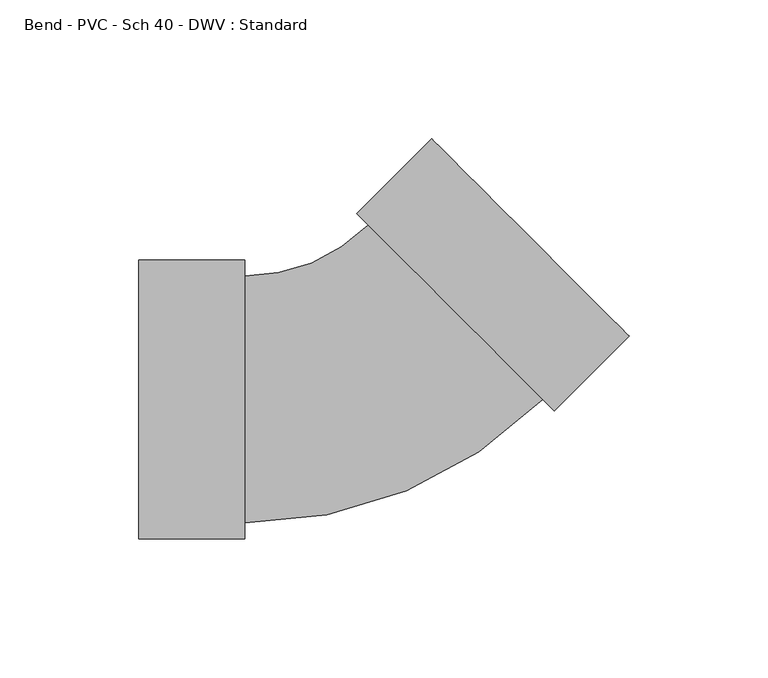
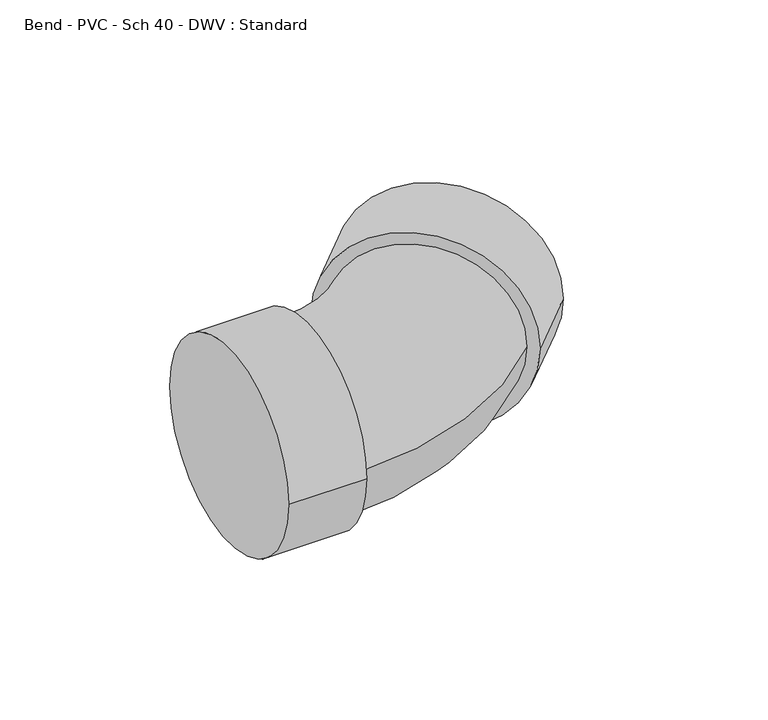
"""IFC4 building model written with IfcOpenShell, lengths in millimetres: pipe fitting geometry, Bend - PVC - Sch 40 - DWV : Standard."""

import ifcopenshell
import ifcopenshell.guid

model = None  # the IFC model being written
_history = None  # IfcOwnerHistory: only IFC2X3 demands one
_inside = {}  # id of a spatial element -> (the spatial element, [elements in it])
_under = {}  # id of a project, library or spatial element -> (it, [spatial elements below it])
_declared = {}  # id of a project -> (the project, [libraries it declares])
_typed = {}  # id of a type object -> (the type object, [elements of that type])
_made_of = {}  # id of a material, layer set ... -> (it, [elements and type objects made of it])


def new_model(schema):
    """Start an empty IFC model of exactly this schema.

    Asked for "IFC4X3", IfcOpenShell would pick the latest addendum, in which some entities
    have other attributes; the version numbers below select the first issue.
    IFC2X3 requires an IfcOwnerHistory on every rooted entity: one is made here for all.
    """
    global model, _history
    if schema == "IFC4X3":
        model = ifcopenshell.file(schema_version=(4, 3, 0, 0))
    else:
        model = ifcopenshell.file(schema=schema)
    _inside.clear()
    _under.clear()
    _declared.clear()
    _typed.clear()
    _made_of.clear()
    _history = None
    if model.schema == "IFC2X3":
        org = make("IfcOrganization", Name="unknown")
        user = make(
            "IfcPersonAndOrganization",
            ThePerson=make("IfcPerson", FamilyName="unknown"),
            TheOrganization=org,
        )
        app = make(
            "IfcApplication",
            ApplicationDeveloper=org,
            Version="unknown",
            ApplicationFullName="unknown",
            ApplicationIdentifier="unknown",
        )
        _history = make(
            "IfcOwnerHistory",
            OwningUser=user,
            OwningApplication=app,
            ChangeAction="ADDED",
            CreationDate=0,
        )
    return model


def make(cls, **values):
    """One entity of the class cls with the attributes given. An attribute that is None is left unset."""
    return model.create_entity(
        cls, **{name: value for name, value in values.items() if value is not None}
    )


def rooted(cls, **values):
    """An entity with a GlobalId (a new one), such as an element, a storey or a relation."""
    return make(cls, GlobalId=ifcopenshell.guid.new(), OwnerHistory=_history, **values)


def si_unit(unit_type, name, prefix=None):
    """IfcSIUnit, for example si_unit("LENGTHUNIT", "METRE", prefix="MILLI")."""
    return make("IfcSIUnit", UnitType=unit_type, Prefix=prefix, Name=name)


def assignment(units):
    """IfcUnitAssignment: the units of a project."""
    return None if units is None else make("IfcUnitAssignment", Units=units)


def point(xyz):
    """IfcCartesianPoint."""
    return None if xyz is None else make("IfcCartesianPoint", Coordinates=xyz)


def direction(xyz):
    """IfcDirection."""
    return None if xyz is None else make("IfcDirection", DirectionRatios=xyz)


def frame(location, z_axis=None, x_axis=None):
    """IfcAxis2Placement3D, a coordinate frame: its origin and axes. An axis left out is left unset."""
    return make(
        "IfcAxis2Placement3D",
        Location=point(location),
        Axis=direction(z_axis),
        RefDirection=direction(x_axis),
    )


def origin():
    """The frame at (0, 0, 0) with its axes left unset."""
    return frame((0.0, 0.0, 0.0))


def place(relative_to, where):
    """IfcLocalPlacement: puts the frame where relative to a parent placement (None: the world)."""
    return make(
        "IfcLocalPlacement", PlacementRelTo=relative_to, RelativePlacement=where
    )


def context(
    kind, dimensions, precision=None, world=None, true_north=None, identifier=None
):
    """IfcGeometricRepresentationContext, for example the 3D "Model" context."""
    return make(
        "IfcGeometricRepresentationContext",
        ContextIdentifier=identifier,
        ContextType=kind,
        CoordinateSpaceDimension=dimensions,
        Precision=precision,
        WorldCoordinateSystem=world,
        TrueNorth=true_north,
    )


def project(units=None, contexts=None):
    """IfcProject with its units and contexts."""
    return rooted(
        "IfcProject",
        Name="project",
        RepresentationContexts=contexts,
        UnitsInContext=assignment(units),
    )


def spatial(cls, under=None, at=None, **own):
    """A site, building, storey or space (cls), placed at a placement, below another one or the project."""
    s = rooted(cls, ObjectPlacement=at, **own)
    if under is not None:
        _under.setdefault(under.id(), (under, []))[1].append(s)
    return s


def circle_curve(where, radius):
    """IfcCircle in the frame where."""
    return make("IfcCircle", Position=where, Radius=radius)


def ellipse_curve(where, semi_axis1, semi_axis2):
    """IfcEllipse in the frame where."""
    return make(
        "IfcEllipse", Position=where, SemiAxis1=semi_axis1, SemiAxis2=semi_axis2
    )


def trimmed(basis, trim1, trim2, sense, master):
    """IfcTrimmedCurve: the piece of a basis curve between two trims."""
    return make(
        "IfcTrimmedCurve",
        BasisCurve=basis,
        Trim1=trim1,
        Trim2=trim2,
        SenseAgreement=sense,
        MasterRepresentation=master,
    )


def shape(context_of_items, identifier, shape_type, items):
    """IfcShapeRepresentation: the items that make up one representation, for example the "Body"."""
    return make(
        "IfcShapeRepresentation",
        ContextOfItems=context_of_items,
        RepresentationIdentifier=identifier,
        RepresentationType=shape_type,
        Items=items,
    )


def source(mapping_origin, context_of_items, identifier, shape_type, items):
    """IfcRepresentationMap: a shape defined once, which mapped items show again and again."""
    return make(
        "IfcRepresentationMap",
        MappingOrigin=mapping_origin,
        MappedRepresentation=shape(context_of_items, identifier, shape_type, items),
    )


def transform(
    local_origin,
    x_axis=None,
    y_axis=None,
    z_axis=None,
    scale=None,
    scale2=None,
    scale3=None,
    uniform=True,
):
    """IfcCartesianTransformationOperator3D, or its non-uniform kind. x_axis, y_axis, z_axis: its Axis1, 2, 3."""
    if uniform:
        return make(
            "IfcCartesianTransformationOperator3D",
            Axis1=direction(x_axis),
            Axis2=direction(y_axis),
            LocalOrigin=point(local_origin),
            Scale=scale,
            Axis3=direction(z_axis),
        )
    return make(
        "IfcCartesianTransformationOperator3DnonUniform",
        Axis1=direction(x_axis),
        Axis2=direction(y_axis),
        LocalOrigin=point(local_origin),
        Scale=scale,
        Axis3=direction(z_axis),
        Scale2=scale2,
        Scale3=scale3,
    )


def mapped(mapping_source, mapping_target):
    """IfcMappedItem: shows the shape of a source again, moved by a transform."""
    return make(
        "IfcMappedItem", MappingSource=mapping_source, MappingTarget=mapping_target
    )


def made_of(thing, what):
    """Note that an element or type object is made of a material, layer set ...; save() writes the relation."""
    if what is not None:
        _made_of.setdefault(what.id(), (what, []))[1].append(thing)
    return thing


def element(
    cls,
    number,
    at=None,
    inside=None,
    cuts=None,
    type_object=None,
    material=None,
    context=None,
    identifier="Body",
    shape_type=None,
    held_by="IfcProductDefinitionShape",
    body=None,
    shapes=None,
    **own,
):
    """One element of the class cls, such as IfcWall. Its Tag is "e" and its number.

    at: its placement. inside: the storey or other place that contains it. cuts: it is an
    opening in that element (IfcRelVoidsElement). A single representation is given by context,
    identifier, shape_type and body (its items); several are given by shapes. held_by: the class
    of the entity that holds the representations. save() writes the other relations.
    """
    e = rooted(cls, Tag="e%d" % number, ObjectPlacement=at, **own)
    if body is not None:
        shapes = [shape(context, identifier, shape_type, body)]
    if shapes is not None:
        e.Representation = make(held_by, Representations=shapes)
    if inside is not None:
        _inside.setdefault(inside.id(), (inside, []))[1].append(e)
    if cuts is not None:
        rooted(
            "IfcRelVoidsElement", RelatingBuildingElement=cuts, RelatedOpeningElement=e
        )
    if type_object is not None:
        _typed.setdefault(type_object.id(), (type_object, []))[1].append(e)
    return made_of(e, material)


def aggregate(whole, parts):
    """IfcRelAggregates: a whole, such as a stair, and the parts it consists of."""
    return rooted("IfcRelAggregates", RelatingObject=whole, RelatedObjects=parts)


def save(model, path):
    """Write the relations noted so far, then the file.

    IfcRelAggregates (storeys below a building ...), IfcRelContainedInSpatialStructure (elements
    in a storey), IfcRelDefinesByType, IfcRelAssociatesMaterial and IfcRelDeclares: one each for
    every whole, place, type object, material and project.
    """
    for whole, parts in _under.values():
        aggregate(whole, parts)
    for where, things in _inside.values():
        rooted(
            "IfcRelContainedInSpatialStructure",
            RelatedElements=things,
            RelatingStructure=where,
        )
    for kind, things in _typed.values():
        rooted("IfcRelDefinesByType", RelatedObjects=things, RelatingType=kind)
    for what, things in _made_of.values():
        rooted("IfcRelAssociatesMaterial", RelatedObjects=things, RelatingMaterial=what)
    for by, libraries in _declared.values():
        rooted("IfcRelDeclares", RelatingContext=by, RelatedDefinitions=libraries)
    model.write(path)


def plane_surface(at):
    """IfcPlane: the flat surface through the origin of the frame at, square to its z axis."""
    return make("IfcPlane", Position=at)


def cylinder_surface(at, radius):
    """IfcCylindricalSurface: all points at the distance radius from the z axis of the frame at."""
    return make("IfcCylindricalSurface", Position=at, Radius=radius)


def revolved_surface(curve, axis_point, axis_direction):
    """IfcSurfaceOfRevolution: the curve turned about the line through axis_point along axis_direction."""
    return make(
        "IfcSurfaceOfRevolution",
        SweptCurve=make("IfcArbitraryOpenProfileDef", ProfileType="CURVE", Curve=curve),
        AxisPosition=make("IfcAxis1Placement", Location=point(axis_point), Axis=direction(axis_direction)),
    )


def advanced_brep(points, edges, surfaces, faces):
    """IfcAdvancedBrep: a solid bounded by faces that lie on surfaces and meet in shared edges.

    An edge is (start, end): straight between two places in points (the first is 0);
    or (start, end, curve); or (start, end, curve, False) where it runs against its curve.
    A face is (place in surfaces, loops), or (place, loops, False) where it looks against
    its surface's normal. A loop lists edges by number (the first is 1), with a minus sign
    where the edge is run from its end to its start. The first loop is the outer one.
    """
    corners = [point(p) for p in points]
    vertices = [make("IfcVertexPoint", VertexGeometry=c) for c in corners]
    made = []
    for start, end, *more in edges:
        made.append(
            make(
                "IfcEdgeCurve",
                EdgeStart=vertices[start],
                EdgeEnd=vertices[end],
                EdgeGeometry=more[0] if more else make("IfcPolyline", Points=[corners[start], corners[end]]),
                SameSense=more[1] if len(more) > 1 else True,
            )
        )
    hull = []
    for where, loops, *sense in faces:
        bounds = []
        for j, loop in enumerate(loops):
            ring = [make("IfcOrientedEdge", EdgeElement=made[abs(k) - 1], Orientation=k > 0) for k in loop]
            bounds.append(
                make(
                    "IfcFaceOuterBound" if j == 0 else "IfcFaceBound",
                    Bound=make("IfcEdgeLoop", EdgeList=ring),
                    Orientation=True,
                )
            )
        hull.append(make("IfcAdvancedFace", Bounds=bounds, FaceSurface=surfaces[where], SameSense=sense[0] if sense else True))
    return make("IfcAdvancedBrep", Outer=make("IfcClosedShell", CfsFaces=hull))


def bend_pvc_sch_40_dwv_standard_679b6376(model_context):
    return source(origin(), model_context, "Body", "AdvancedBrep", [
        advanced_brep(
        [(-82.55, -50.2666, 0.0), (-82.55, 50.2666, 0.0), (-44.45, -50.2666, 0.0), (-44.45, 50.2666, 0.0), (-44.45, -44.45, 0.0), (-44.45, 44.45, 0.0), (0.0112801, 62.8617918, 0.0), (62.8617918, -0.0112801, 0.0), (66.974011, -4.1249754, 0.0), (-4.1009391, 66.9754871, 0.0), (93.9196133, 22.8109582, 0.0), (22.8446632, 93.9114207, 0.0)],
        [
            (0, 1, circle_curve(frame((-82.55, 0.0, 0.0), z_axis=(-1.0, 0.0, 0.0), x_axis=(0.0, 1.0, 0.0)), 50.2666)),
            (1, 0, circle_curve(frame((-82.55, 0.0, 0.0), z_axis=(-1.0, 0.0, 0.0), x_axis=(0.0, 1.0, 0.0)), 50.2666)),
            (2, 3, circle_curve(frame((-44.45, 0.0, 0.0), z_axis=(1.0, 0.0, 0.0), x_axis=(0.0, 1.0, 0.0)), 50.2666)),
            (3, 2, circle_curve(frame((-44.45, 0.0, 0.0), z_axis=(1.0, 0.0, 0.0), x_axis=(0.0, 1.0, 0.0)), 50.2666)),
            (4, 5, circle_curve(frame((-44.45, 0.0, 0.0), z_axis=(-1.0, 0.0, 0.0), x_axis=(0.0, 1.0, 0.0)), 44.45)),
            (5, 4, circle_curve(frame((-44.45, 0.0, 0.0), z_axis=(-1.0, 0.0, 0.0), x_axis=(0.0, 1.0, 0.0)), 44.45)),
            (0, 2),
            (3, 1),
            (6, 5, circle_curve(frame((-44.45, 107.3390314, 0.0), z_axis=(0.0, 0.0, -1.0), x_axis=(0.0, -1.0, 0.0)), 62.8890314)),
            (4, 7, circle_curve(frame((-44.45, 107.3390314, 0.0), z_axis=(0.0, 0.0, 1.0), x_axis=(0.0, -1.0, 0.0)), 151.7890314)),
            (7, 6, circle_curve(frame((31.436536, 31.4252558, 0.0), z_axis=(-0.7072336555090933, -0.7069798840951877, 0.0), x_axis=(-0.7069798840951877, 0.7072336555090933, 0.0)), 44.45)),
            (6, 7, circle_curve(frame((31.436536, 31.4252558, 0.0), z_axis=(-0.7072336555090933, -0.7069798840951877, 0.0), x_axis=(-0.7069798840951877, 0.7072336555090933, 0.0)), 44.45)),
            (8, 9, circle_curve(frame((31.436536, 31.4252558, 0.0), z_axis=(-0.7072336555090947, -0.7069798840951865, 0.0), x_axis=(-0.7069798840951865, 0.7072336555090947, 0.0)), 50.2666)),
            (9, 8, circle_curve(frame((31.436536, 31.4252558, 0.0), z_axis=(-0.7072336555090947, -0.7069798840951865, 0.0), x_axis=(-0.7069798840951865, 0.7072336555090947, 0.0)), 50.2666)),
            (10, 11, circle_curve(frame((58.3821383, 58.3611894, 0.0), z_axis=(0.7072336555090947, 0.7069798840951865, 0.0), x_axis=(-0.7069798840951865, 0.7072336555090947, 0.0)), 50.2666)),
            (11, 10, circle_curve(frame((58.3821383, 58.3611894, 0.0), z_axis=(0.7072336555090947, 0.7069798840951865, 0.0), x_axis=(-0.7069798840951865, 0.7072336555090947, 0.0)), 50.2666)),
            (8, 10),
            (11, 9),
        ],
        [
            plane_surface(frame((-82.55, 0.0, 0.0), z_axis=(-1.0, 0.0, 0.0), x_axis=(0.0, 0.0, 1.0))),
            plane_surface(frame((-44.45, 0.0, 0.0), z_axis=(1.0, 0.0, 0.0), x_axis=(0.0, 0.0, 1.0))),
            cylinder_surface(frame((-82.55, 0.0, 0.0), z_axis=(-1.0, 0.0, 0.0), x_axis=(0.0, 1.0, 0.0)), 50.2666),
            revolved_surface(trimmed(ellipse_curve(frame((-44.45, 0.0, 0.0), z_axis=(-1.0, 0.0, 0.0), x_axis=(0.0, 1.0, 0.0)), 44.45, 44.45), [point((-44.45, -44.45, 0.0))], [point((-44.45, 44.45, 0.0))], True, "CARTESIAN"), (-44.45, 107.3390314, 0.0), (0.0, 0.0, 1.0)),
            revolved_surface(trimmed(ellipse_curve(frame((-44.45, 0.0, 0.0), z_axis=(-1.0, 0.0, 0.0), x_axis=(0.0, 1.0, 0.0)), 44.45, 44.45), [point((-44.45, 44.45, 0.0))], [point((-44.45, -44.45, 0.0))], True, "CARTESIAN"), (-44.45, 107.3390314, 0.0), (0.0, 0.0, 1.0)),
            plane_surface(frame((31.436536, 31.4252558, 0.0), z_axis=(-0.7072336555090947, -0.7069798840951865, 0.0), x_axis=(0.0, 0.0, 1.0))),
            plane_surface(frame((58.3821383, 58.3611894, 0.0), z_axis=(0.7072336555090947, 0.7069798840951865, 0.0), x_axis=(0.0, 0.0, 1.0))),
            cylinder_surface(frame((31.436536, 31.4252558, 0.0), z_axis=(-0.7072336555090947, -0.7069798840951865, 0.0), x_axis=(-0.7069798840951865, 0.7072336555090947, 0.0)), 50.2666),
        ],
        [
            (0, [[1, 2]]),
            (1, [[3, 4], [5, 6]]),
            (2, [[-1, 7, -4, 8]]),
            (2, [[-2, -8, -3, -7]]),
            (3, [[9, -5, 10, 11]]),
            (4, [[-9, 12, -10, -6]]),
            (5, [[13, 14], [-11, -12]]),
            (6, [[15, 16]]),
            (7, [[-13, 17, -16, 18]]),
            (7, [[-14, -18, -15, -17]]),
        ],
    ),
    ])


if __name__ == "__main__":
    model = new_model("IFC4")
    model_context = context("Model", 3, world=origin())
    ifc_project = project(units=[si_unit("LENGTHUNIT", "METRE", prefix="MILLI")], contexts=[model_context])
    site = spatial("IfcSite", under=ifc_project)
    building = spatial("IfcBuilding", under=site)
    placement = place(None, origin())
    bend_pvc_sch_40_dwv_standard_shape = bend_pvc_sch_40_dwv_standard_679b6376(model_context)
    element("IfcPipeFitting", 1, ObjectType="Bend - PVC - Sch 40 - DWV : Standard", at=placement, inside=building, context=model_context, shape_type="MappedRepresentation", body=[
        mapped(bend_pvc_sch_40_dwv_standard_shape, transform((0.0, 0.0, 0.0), x_axis=(1.0, 0.0, 0.0), y_axis=(0.0, 1.0, 0.0), z_axis=(0.0, 0.0, 1.0))),
    ])
    save(model, "model.ifc")
